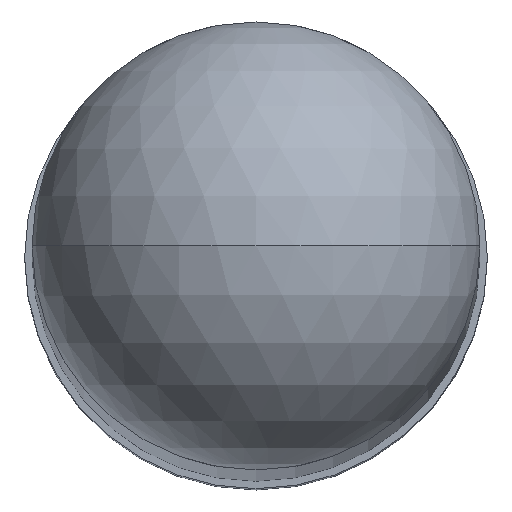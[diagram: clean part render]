
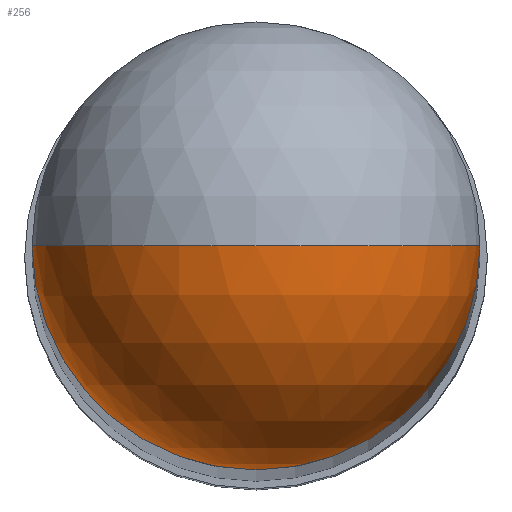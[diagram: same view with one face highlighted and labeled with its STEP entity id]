
A CAD part, top view. The second image highlights one B-rep face of the part: STEP entity #256.
In plain terms, the highlighted spherical face has radius 3 mm.
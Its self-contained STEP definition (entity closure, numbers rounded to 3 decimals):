
#1 = AXIS2_PLACEMENT_3D ( 'NONE', #272, #34, #158 ) ;
#6 = FACE_OUTER_BOUND ( 'NONE', #222, .T. ) ;
#18 = CARTESIAN_POINT ( 'NONE',  ( 0., 0., 117. ) ) ;
#34 = DIRECTION ( 'NONE',  ( 0., -1., 0. ) ) ;
#40 = DIRECTION ( 'NONE',  ( 0., 1., 0. ) ) ;
#63 = VERTEX_POINT ( 'NONE', #274 ) ;
#100 = CARTESIAN_POINT ( 'NONE',  ( 0., 0., 117. ) ) ;
#108 = DIRECTION ( 'NONE',  ( 0., 0., -1. ) ) ;
#124 = DIRECTION ( 'NONE',  ( 1., 0., 0. ) ) ;
#125 = EDGE_CURVE ( 'NONE', #234, #63, #134, .T. ) ;
#128 = CIRCLE ( 'NONE', #1, 3. ) ;
#134 = CIRCLE ( 'NONE', #196, 3. ) ;
#151 = ORIENTED_EDGE ( 'NONE', *, *, #125, .F. ) ;
#156 = DIRECTION ( 'NONE',  ( -1., 0., 0. ) ) ;
#158 = DIRECTION ( 'NONE',  ( 0., 0., -1. ) ) ;
#159 = CIRCLE ( 'NONE', #278, 3. ) ;
#185 = EDGE_CURVE ( 'NONE', #63, #354, #159, .T. ) ;
#195 = CARTESIAN_POINT ( 'NONE',  ( 0., 0., 120. ) ) ;
#196 = AXIS2_PLACEMENT_3D ( 'NONE', #301, #108, #304 ) ;
#215 = AXIS2_PLACEMENT_3D ( 'NONE', #100, #236, #124 ) ;
#222 = EDGE_LOOP ( 'NONE', ( #303, #151, #285 ) ) ;
#231 = EDGE_CURVE ( 'NONE', #234, #354, #128, .T. ) ;
#234 = VERTEX_POINT ( 'NONE', #319 ) ;
#236 = DIRECTION ( 'NONE',  ( 0., 1., 0. ) ) ;
#256 = ADVANCED_FACE ( 'NONE', ( #6 ), #329, .T. ) ;
#272 = CARTESIAN_POINT ( 'NONE',  ( 0., 0., 117. ) ) ;
#274 = CARTESIAN_POINT ( 'NONE',  ( -3., 0., 117. ) ) ;
#278 = AXIS2_PLACEMENT_3D ( 'NONE', #18, #40, #156 ) ;
#285 = ORIENTED_EDGE ( 'NONE', *, *, #231, .T. ) ;
#301 = CARTESIAN_POINT ( 'NONE',  ( 0., 0., 117. ) ) ;
#303 = ORIENTED_EDGE ( 'NONE', *, *, #185, .F. ) ;
#304 = DIRECTION ( 'NONE',  ( -1., 0., 0. ) ) ;
#319 = CARTESIAN_POINT ( 'NONE',  ( 3., 0., 117. ) ) ;
#329 = SPHERICAL_SURFACE ( 'NONE', #215, 3. ) ;
#354 = VERTEX_POINT ( 'NONE', #195 ) ;
